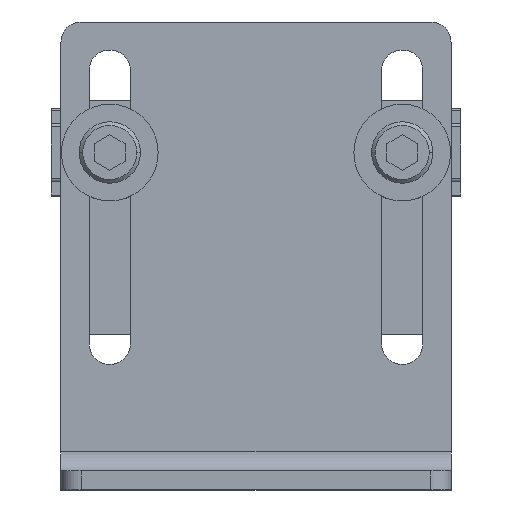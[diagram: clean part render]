
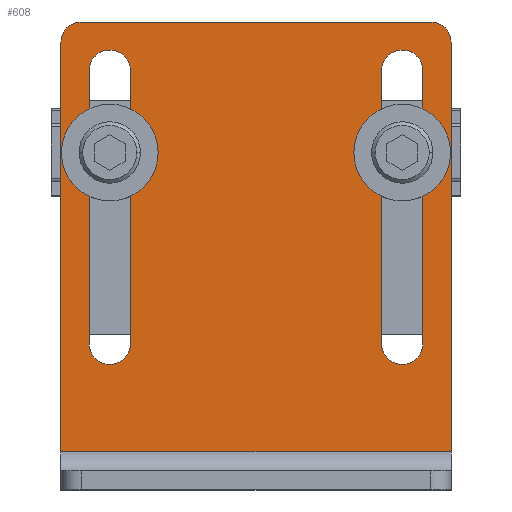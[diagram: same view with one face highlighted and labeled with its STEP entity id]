
A CAD part, top view. The second image highlights one B-rep face of the part: STEP entity #608.
In plain terms, the highlighted planar face has unit normal (0, 0, 1).
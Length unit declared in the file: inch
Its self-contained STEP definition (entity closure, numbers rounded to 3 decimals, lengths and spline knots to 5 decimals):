
#79=DIRECTION('',(0.,-1.,0.));
#80=VECTOR('',#79,1.75);
#81=CARTESIAN_POINT('',(0.805,-0.312,0.12));
#82=LINE('',#81,#80);
#83=CARTESIAN_POINT('',(0.9375,-2.062,0.12));
#84=DIRECTION('',(0.,0.,1.));
#85=DIRECTION('',(-1.,0.,0.));
#86=AXIS2_PLACEMENT_3D('',#83,#84,#85);
#88=DIRECTION('',(0.,1.,0.));
#89=VECTOR('',#88,1.75);
#90=CARTESIAN_POINT('',(1.07,-2.062,0.12));
#91=LINE('',#90,#89);
#92=CARTESIAN_POINT('',(0.9375,-0.312,0.12));
#93=DIRECTION('',(0.,0.,1.));
#94=DIRECTION('',(1.,0.,0.));
#95=AXIS2_PLACEMENT_3D('',#92,#93,#94);
#97=CARTESIAN_POINT('',(-0.9375,-0.312,0.12));
#98=DIRECTION('',(0.,0.,1.));
#99=DIRECTION('',(1.,0.,0.));
#100=AXIS2_PLACEMENT_3D('',#97,#98,#99);
#102=DIRECTION('',(0.,-1.,0.));
#103=VECTOR('',#102,1.75);
#104=CARTESIAN_POINT('',(-1.07,-0.312,0.12));
#105=LINE('',#104,#103);
#106=CARTESIAN_POINT('',(-0.9375,-2.062,0.12));
#107=DIRECTION('',(0.,0.,1.));
#108=DIRECTION('',(-1.,0.,0.));
#109=AXIS2_PLACEMENT_3D('',#106,#107,#108);
#111=DIRECTION('',(0.,1.,0.));
#112=VECTOR('',#111,1.75);
#113=CARTESIAN_POINT('',(-0.805,-2.062,0.12));
#114=LINE('',#113,#112);
#115=CARTESIAN_POINT('',(-1.12,-0.13,0.12));
#116=DIRECTION('',(0.,0.,1.));
#117=DIRECTION('',(0.,1.,0.));
#118=AXIS2_PLACEMENT_3D('',#115,#116,#117);
#120=DIRECTION('',(-1.,0.,0.));
#121=VECTOR('',#120,2.24);
#122=CARTESIAN_POINT('',(1.12,0.,0.12));
#123=LINE('',#122,#121);
#124=CARTESIAN_POINT('',(1.12,-0.13,0.12));
#125=DIRECTION('',(0.,0.,1.));
#126=DIRECTION('',(1.,0.,0.));
#127=AXIS2_PLACEMENT_3D('',#124,#125,#126);
#129=DIRECTION('',(0.,1.,0.));
#130=VECTOR('',#129,2.625);
#131=CARTESIAN_POINT('',(1.25,-2.755,0.12));
#132=LINE('',#131,#130);
#133=DIRECTION('',(-1.,0.,0.));
#134=VECTOR('',#133,2.5);
#135=CARTESIAN_POINT('',(1.25,-2.755,0.12));
#136=LINE('',#135,#134);
#137=DIRECTION('',(0.,-1.,0.));
#138=VECTOR('',#137,2.625);
#139=CARTESIAN_POINT('',(-1.25,-0.13,0.12));
#140=LINE('',#139,#138);
#365=CARTESIAN_POINT('',(1.25,-2.755,0.12));
#366=CARTESIAN_POINT('',(-1.25,-2.755,0.12));
#367=VERTEX_POINT('',#365);
#368=VERTEX_POINT('',#366);
#397=CARTESIAN_POINT('',(0.805,-0.312,0.12));
#398=CARTESIAN_POINT('',(0.805,-2.062,0.12));
#399=VERTEX_POINT('',#397);
#400=VERTEX_POINT('',#398);
#401=CARTESIAN_POINT('',(1.07,-2.062,0.12));
#402=VERTEX_POINT('',#401);
#403=CARTESIAN_POINT('',(1.07,-0.312,0.12));
#404=VERTEX_POINT('',#403);
#405=CARTESIAN_POINT('',(-0.805,-0.312,0.12));
#406=CARTESIAN_POINT('',(-1.07,-0.312,0.12));
#407=VERTEX_POINT('',#405);
#408=VERTEX_POINT('',#406);
#409=CARTESIAN_POINT('',(-1.07,-2.062,0.12));
#410=VERTEX_POINT('',#409);
#411=CARTESIAN_POINT('',(-0.805,-2.062,0.12));
#412=VERTEX_POINT('',#411);
#465=CARTESIAN_POINT('',(-1.12,0.,0.12));
#466=VERTEX_POINT('',#465);
#467=CARTESIAN_POINT('',(-1.25,-0.13,0.12));
#468=VERTEX_POINT('',#467);
#473=CARTESIAN_POINT('',(1.25,-0.13,0.12));
#474=VERTEX_POINT('',#473);
#475=CARTESIAN_POINT('',(1.12,0.,0.12));
#476=VERTEX_POINT('',#475);
#573=CARTESIAN_POINT('',(0.,0.,0.12));
#574=DIRECTION('',(0.,0.,1.));
#575=DIRECTION('',(1.,0.,0.));
#576=AXIS2_PLACEMENT_3D('',#573,#574,#575);
#577=PLANE('',#576);
#579=ORIENTED_EDGE('',*,*,#578,.F.);
#581=ORIENTED_EDGE('',*,*,#580,.F.);
#583=ORIENTED_EDGE('',*,*,#582,.F.);
#585=ORIENTED_EDGE('',*,*,#584,.F.);
#587=ORIENTED_EDGE('',*,*,#586,.T.);
#589=ORIENTED_EDGE('',*,*,#588,.F.);
#590=EDGE_LOOP('',(#579,#581,#583,#585,#587,#589));
#591=FACE_OUTER_BOUND('',#590,.F.);
#593=ORIENTED_EDGE('',*,*,#592,.T.);
#595=ORIENTED_EDGE('',*,*,#594,.T.);
#597=ORIENTED_EDGE('',*,*,#596,.T.);
#599=ORIENTED_EDGE('',*,*,#598,.T.);
#600=EDGE_LOOP('',(#593,#595,#597,#599));
#601=FACE_BOUND('',#600,.F.);
#602=ORIENTED_EDGE('',*,*,#525,.T.);
#603=ORIENTED_EDGE('',*,*,#540,.T.);
#604=ORIENTED_EDGE('',*,*,#554,.T.);
#605=ORIENTED_EDGE('',*,*,#567,.T.);
#606=EDGE_LOOP('',(#602,#603,#604,#605));
#607=FACE_BOUND('',#606,.F.);
#87=CIRCLE('',#86,0.1325);
#96=CIRCLE('',#95,0.1325);
#101=CIRCLE('',#100,0.1325);
#110=CIRCLE('',#109,0.1325);
#119=CIRCLE('',#118,0.13);
#128=CIRCLE('',#127,0.13);
#525=EDGE_CURVE('',#399,#400,#82,.T.);
#540=EDGE_CURVE('',#400,#402,#87,.T.);
#554=EDGE_CURVE('',#402,#404,#91,.T.);
#567=EDGE_CURVE('',#404,#399,#96,.T.);
#578=EDGE_CURVE('',#466,#468,#119,.T.);
#580=EDGE_CURVE('',#476,#466,#123,.T.);
#582=EDGE_CURVE('',#474,#476,#128,.T.);
#584=EDGE_CURVE('',#367,#474,#132,.T.);
#586=EDGE_CURVE('',#367,#368,#136,.T.);
#588=EDGE_CURVE('',#468,#368,#140,.T.);
#592=EDGE_CURVE('',#407,#408,#101,.T.);
#594=EDGE_CURVE('',#408,#410,#105,.T.);
#596=EDGE_CURVE('',#410,#412,#110,.T.);
#598=EDGE_CURVE('',#412,#407,#114,.T.);
#608=ADVANCED_FACE('',(#591,#601,#607),#577,.T.);
